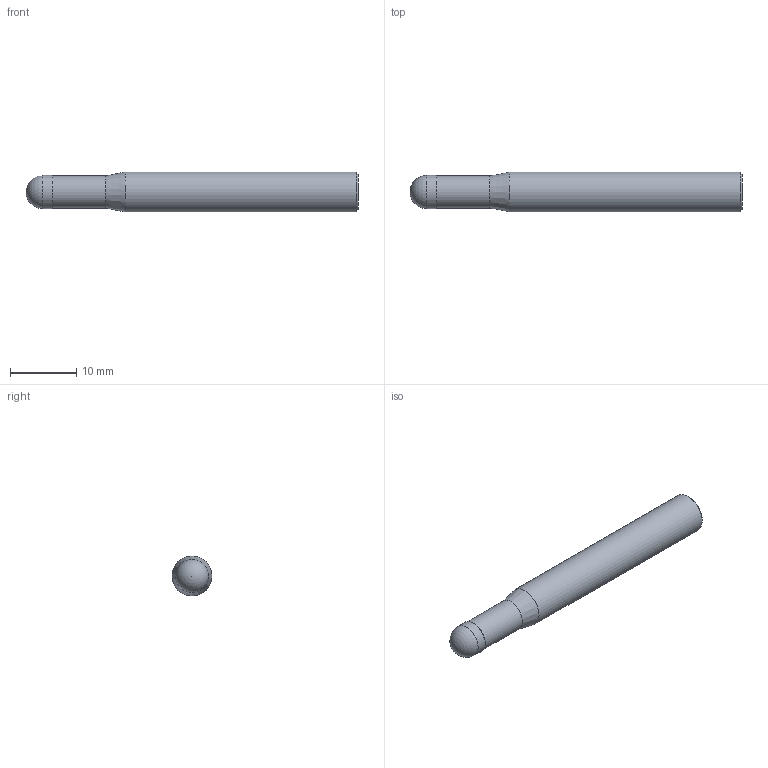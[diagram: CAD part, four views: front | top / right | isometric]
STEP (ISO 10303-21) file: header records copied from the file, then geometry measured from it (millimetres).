
FILE_DESCRIPTION(/* description */ (''),/* implementation_level */ '2;1');
FILE_NAME(/* name */ 'HSXB2050 0650.stp',/* time_stamp */ '2026-08-01T17:13:23+08:00',/* author */ (''),/* organization */ (''),/* preprocessor_version */ 'ST-DEVELOPER v16',/* originating_system */ 'SIEMENS PLM Software NX 10.0',/* authorisation */ '');
FILE_SCHEMA (('CONFIG_CONTROL_DESIGN'));
Length unit declared in the file: millimetre
Products named in the file (1): HSXB2050 0650_dxf
Bounding box: 50 x 6 x 6 mm (x, y, z)
Volume: 1268.6 mm3; surface area: 959.6 mm2
Topology: 2 solids, 2 shells, 9 faces, 15 edges, 9 vertices
Faces by surface type: plane 3, cylinder 3, cone 2, sphere 1
Full cylindrical faces by diameter (mm): 4.85 x1, 5 x1, 6 x1
Entity records: 246 total; most frequent: DIRECTION 34, CARTESIAN_POINT 24, AXIS2_PLACEMENT_3D 17, EDGE_LOOP 14, ORIENTED_EDGE 14, FACE_BOUND 10, ADVANCED_FACE 9, PERSON_AND_ORGANIZATION 7
